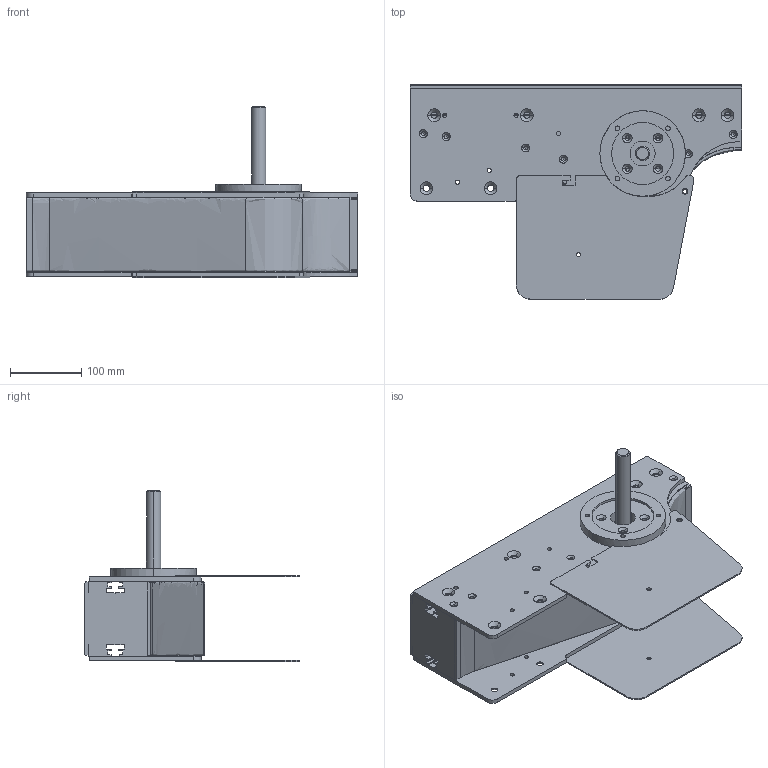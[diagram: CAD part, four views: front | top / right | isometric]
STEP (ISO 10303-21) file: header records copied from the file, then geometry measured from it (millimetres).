
FILE_DESCRIPTION (( 'STEP AP214' ), '1' );
FILE_NAME ('FCID DD 0R.step', '2017-04-07T11:06:18', ( '' ), ( '' ), 'SwSTEP 2.0', 'SolidWorks 2016', '' );
FILE_SCHEMA (( 'AUTOMOTIVE_DESIGN' ));
Length unit declared in the file: millimetre
Products named in the file (1): FCID DD 0R
Bounding box: 465 x 300.72 x 240.7 mm (x, y, z)
Volume: 7006414.5 mm3; surface area: 601495.9 mm2
Topology: 1 solids, 3 shells, 490 faces, 1306 edges, 797 vertices
Faces by surface type: cylinder 214, plane 142, cone 122, bspline 12
Entity records: 19346 total; most frequent: CARTESIAN_POINT 4738, DIRECTION 2732, ORIENTED_EDGE 2524, EDGE_CURVE 1262, AXIS2_PLACEMENT_3D 1018, VERTEX_POINT 797, LINE 696, VECTOR 696
